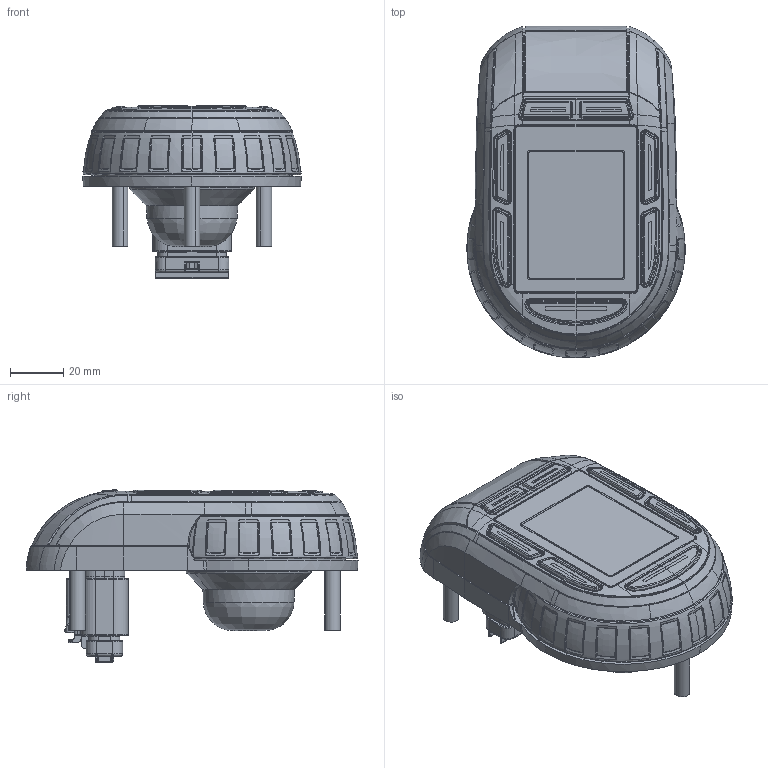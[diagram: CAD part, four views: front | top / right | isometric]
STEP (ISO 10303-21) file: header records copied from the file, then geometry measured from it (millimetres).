
FILE_DESCRIPTION(('CATIA V5 STEP Exchange'),'2;1');
FILE_NAME('G:\LAVORO\0 - 0 - 28 - AMA encoder 2018\DashControl_2018_Pelle esterna_connettore.stp','2018-09-26T08:15:49+00:00',('none'),('none'),'CATIA Version 5 Release 21 SP 3 (IN-10)','CATIA V5 STEP AP203','none');
FILE_SCHEMA(('CONFIG_CONTROL_DESIGN'));
Products named in the file (1): Part2
Bounding box: 82 x 124.51 x 64.54 mm (x, y, z)
Volume: 244618.9 mm3; surface area: 54952.8 mm2
Topology: 2 solids, 8 shells, 3147 faces, 8280 edges, 5126 vertices
Faces by surface type: plane 1248, bspline 966, cylinder 453, sphere 140, extrusion 122, torus 100, cone 84, revolution 34
Entity records: 157054 total; most frequent: CARTESIAN_POINT 90908, ORIENTED_EDGE 16320, DIRECTION 8686, EDGE_CURVE 8160, VERTEX_POINT 5126, VECTOR 3738, LINE 3616, B_SPLINE_CURVE_WITH_KNOTS 3600
